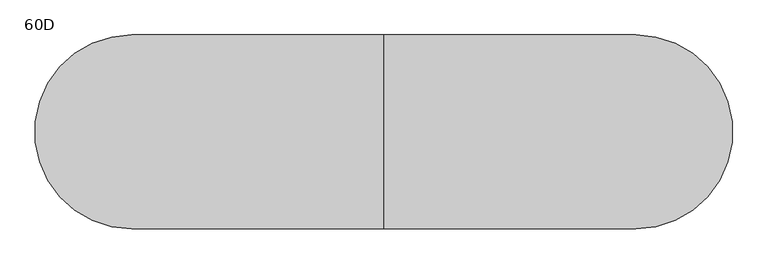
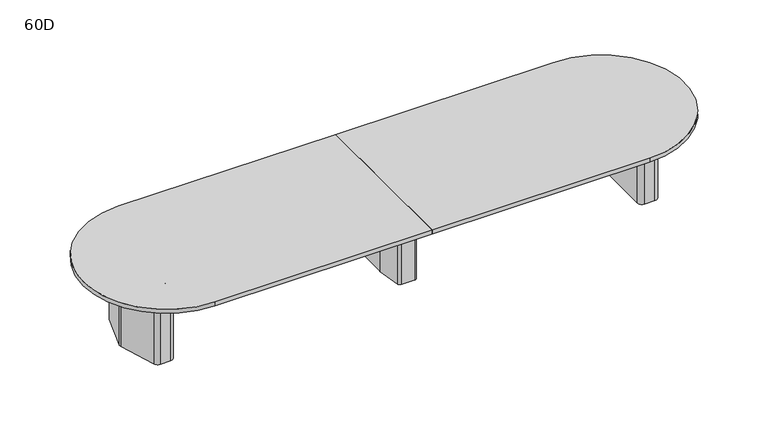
"""IFC4 building model written with IfcOpenShell, lengths in millimetres: furniture geometry, Coalesse_AM_Table_Conference_ETable2_Racetrack_18ft_ThreeBase : 60D."""

from ifc_helpers import new_model, si_unit, point, frame, frame_2d, origin, origin_with_axes, place, context, project, spatial, polyline, circle_curve, trimmed, segment, composite_curve, outline, extrude, source, transform, mapped, element, save
from ifc_brep_helpers import plane_surface, cylinder_surface, revolved_surface, advanced_brep


def furniture_60d_041f9e97(model_context):
    return source(origin(), model_context, "Body", "SolidModel", [
        advanced_brep(
        [(61.0357815, 381.0, 698.5), (-61.0357815, 381.0, 698.5), (-86.1885994, 359.1349332, 698.5), (-117.2278179, 138.2753661, 698.5), (-117.475, 134.740433, 698.5), (-117.475, -134.7404196, 698.5), (-117.2278463, -138.2751502, 698.5), (-86.1904395, -359.1347306, 698.5), (-61.0375932, -381.0, 698.5), (61.0375932, -381.0, 698.5), (86.1904395, -359.1347306, 698.5), (117.2278463, -138.2751502, 698.5), (117.475, -134.7404196, 698.5), (117.475, 134.740433, 698.5), (117.2278179, 138.2753661, 698.5), (86.1885994, 359.1349332, 698.5), (25.4, 314.325, 698.5), (50.8, 288.925, 698.5), (50.8, -288.925, 698.5), (25.4, -314.325, 698.5), (-25.4, -314.325, 698.5), (-50.8, -288.925, 698.5), (-50.8, 288.925, 698.5), (-25.4, 314.325, 698.5), (61.0357815, 381.0, 3.175), (86.1885994, 359.1349332, 3.175), (117.2278179, 138.2753661, 3.175), (117.475, 134.740433, 3.175), (117.475, -134.7404196, 3.175), (117.2278463, -138.2751502, 3.175), (86.1904395, -359.1347306, 3.175), (61.0375932, -381.0, 3.175), (-61.0375932, -381.0, 3.175), (-86.1904395, -359.1347306, 3.175), (-117.2278463, -138.2751502, 3.175), (-117.475, -134.7404196, 3.175), (-117.475, 134.740433, 3.175), (-117.2278179, 138.2753661, 3.175), (-86.1885994, 359.1349332, 3.175), (-61.0357815, 381.0, 3.175), (25.4, 327.025, 3.175), (-25.4, 327.025, 3.175), (-63.5, 288.925, 3.175), (-63.5, -288.925, 3.175), (-25.4, -327.025, 3.175), (25.4, -327.025, 3.175), (63.5, -288.925, 3.175), (63.5, 288.925, 3.175), (25.4, 314.325, 3.175), (50.8, 288.925, 3.175), (50.8, -288.925, 3.175), (25.4, -314.325, 3.175), (-25.4, -314.325, 3.175), (-50.8, -288.925, 3.175), (-50.8, 288.925, 3.175), (-25.4, 314.325, 3.175), (25.4, 327.025, 0.0), (63.5, 288.925, 0.0), (63.5, -288.925, 0.0), (25.4, -327.025, 0.0), (-25.4, -327.025, 0.0), (-63.5, -288.925, 0.0), (-63.5, 288.925, 0.0), (-25.4, 327.025, 0.0)],
        [
            (0, 1),
            (1, 2, circle_curve(frame((-61.0357815, 355.6, 698.5), z_axis=(0.0, 0.0, 1.0), x_axis=(1.0, 0.0, 0.0)), 25.4)),
            (2, 3),
            (3, 4, circle_curve(frame((-92.075, 134.740433, 698.5), z_axis=(0.0, 0.0, 1.0), x_axis=(1.0, 0.0, 0.0)), 25.4)),
            (4, 5),
            (5, 6, circle_curve(frame((-92.075, -134.7404196, 698.5), z_axis=(0.0, 0.0, 1.0), x_axis=(1.0, 0.0, 0.0)), 25.4)),
            (6, 7),
            (7, 8, circle_curve(frame((-61.0375932, -355.6, 698.5), z_axis=(0.0, 0.0, 1.0), x_axis=(1.0, 0.0, 0.0)), 25.4)),
            (8, 9),
            (9, 10, circle_curve(frame((61.0375932, -355.6, 698.5), z_axis=(0.0, 0.0, 1.0), x_axis=(1.0, 0.0, 0.0)), 25.4)),
            (10, 11),
            (11, 12, circle_curve(frame((92.075, -134.7404196, 698.5), z_axis=(0.0, 0.0, 1.0), x_axis=(1.0, 0.0, 0.0)), 25.4)),
            (12, 13),
            (13, 14, circle_curve(frame((92.075, 134.740433, 698.5), z_axis=(0.0, 0.0, 1.0), x_axis=(1.0, 0.0, 0.0)), 25.4)),
            (14, 15),
            (15, 0, circle_curve(frame((61.0357815, 355.6, 698.5), z_axis=(0.0, 0.0, 1.0), x_axis=(1.0, 0.0, 0.0)), 25.4)),
            (16, 17, circle_curve(frame((25.4, 288.925, 698.5), z_axis=(0.0, 0.0, -1.0), x_axis=(1.0, 0.0, 0.0)), 25.4)),
            (17, 18),
            (18, 19, circle_curve(frame((25.4, -288.925, 698.5), z_axis=(0.0, 0.0, -1.0), x_axis=(1.0, 0.0, 0.0)), 25.4)),
            (19, 20),
            (20, 21, circle_curve(frame((-25.4, -288.925, 698.5), z_axis=(0.0, 0.0, -1.0), x_axis=(1.0, 0.0, 0.0)), 25.4)),
            (21, 22),
            (22, 23, circle_curve(frame((-25.4, 288.925, 698.5), z_axis=(0.0, 0.0, -1.0), x_axis=(1.0, 0.0, 0.0)), 25.4)),
            (23, 16),
            (24, 25, circle_curve(frame((61.0357815, 355.6, 3.175), z_axis=(0.0, 0.0, -1.0), x_axis=(1.0, 0.0, 0.0)), 25.4)),
            (25, 26),
            (26, 27, circle_curve(frame((92.075, 134.740433, 3.175), z_axis=(0.0, 0.0, -1.0), x_axis=(1.0, 0.0, 0.0)), 25.4)),
            (27, 28),
            (28, 29, circle_curve(frame((92.075, -134.7404196, 3.175), z_axis=(0.0, 0.0, -1.0), x_axis=(1.0, 0.0, 0.0)), 25.4)),
            (29, 30),
            (30, 31, circle_curve(frame((61.0375932, -355.6, 3.175), z_axis=(0.0, 0.0, -1.0), x_axis=(1.0, 0.0, 0.0)), 25.4)),
            (31, 32),
            (32, 33, circle_curve(frame((-61.0375932, -355.6, 3.175), z_axis=(0.0, 0.0, -1.0), x_axis=(1.0, 0.0, 0.0)), 25.4)),
            (33, 34),
            (34, 35, circle_curve(frame((-92.075, -134.7404196, 3.175), z_axis=(0.0, 0.0, -1.0), x_axis=(1.0, 0.0, 0.0)), 25.4)),
            (35, 36),
            (36, 37, circle_curve(frame((-92.075, 134.740433, 3.175), z_axis=(0.0, 0.0, -1.0), x_axis=(1.0, 0.0, 0.0)), 25.4)),
            (37, 38),
            (38, 39, circle_curve(frame((-61.0357815, 355.6, 3.175), z_axis=(0.0, 0.0, -1.0), x_axis=(1.0, 0.0, 0.0)), 25.4)),
            (39, 24),
            (40, 41),
            (41, 42, circle_curve(frame((-25.4, 288.925, 3.175), z_axis=(0.0, 0.0, 1.0), x_axis=(1.0, 0.0, 0.0)), 38.1)),
            (42, 43),
            (43, 44, circle_curve(frame((-25.4, -288.925, 3.175), z_axis=(0.0, 0.0, 1.0), x_axis=(1.0, 0.0, 0.0)), 38.1)),
            (44, 45),
            (45, 46, circle_curve(frame((25.4, -288.925, 3.175), z_axis=(0.0, 0.0, 1.0), x_axis=(1.0, 0.0, 0.0)), 38.1)),
            (46, 47),
            (47, 40, circle_curve(frame((25.4, 288.925, 3.175), z_axis=(0.0, 0.0, 1.0), x_axis=(1.0, 0.0, 0.0)), 38.1)),
            (0, 24),
            (39, 1),
            (38, 2),
            (37, 3),
            (36, 4),
            (35, 5),
            (34, 6),
            (33, 7),
            (32, 8),
            (31, 9),
            (30, 10),
            (29, 11),
            (28, 12),
            (27, 13),
            (26, 14),
            (25, 15),
            (16, 48),
            (48, 49, circle_curve(frame((25.4, 288.925, 3.175), z_axis=(0.0, 0.0, -1.0), x_axis=(1.0, 0.0, 0.0)), 25.4)),
            (49, 17),
            (49, 50),
            (50, 18),
            (50, 51, circle_curve(frame((25.4, -288.925, 3.175), z_axis=(0.0, 0.0, -1.0), x_axis=(1.0, 0.0, 0.0)), 25.4)),
            (51, 19),
            (51, 52),
            (52, 20),
            (52, 53, circle_curve(frame((-25.4, -288.925, 3.175), z_axis=(0.0, 0.0, -1.0), x_axis=(1.0, 0.0, 0.0)), 25.4)),
            (53, 21),
            (53, 54),
            (54, 22),
            (54, 55, circle_curve(frame((-25.4, 288.925, 3.175), z_axis=(0.0, 0.0, -1.0), x_axis=(1.0, 0.0, 0.0)), 25.4)),
            (55, 23),
            (55, 48),
            (56, 57, circle_curve(frame((25.4, 288.925, 0.0), z_axis=(0.0, 0.0, -1.0), x_axis=(1.0, 0.0, 0.0)), 38.1)),
            (57, 58),
            (58, 59, circle_curve(frame((25.4, -288.925, 0.0), z_axis=(0.0, 0.0, -1.0), x_axis=(1.0, 0.0, 0.0)), 38.1)),
            (59, 60),
            (60, 61, circle_curve(frame((-25.4, -288.925, 0.0), z_axis=(0.0, 0.0, -1.0), x_axis=(1.0, 0.0, 0.0)), 38.1)),
            (61, 62),
            (62, 63, circle_curve(frame((-25.4, 288.925, 0.0), z_axis=(0.0, 0.0, -1.0), x_axis=(1.0, 0.0, 0.0)), 38.1)),
            (63, 56),
            (63, 41),
            (40, 56),
            (62, 42),
            (61, 43),
            (60, 44),
            (59, 45),
            (58, 46),
            (57, 47),
        ],
        [
            plane_surface(frame((-1524.0, 381.0, 698.5), z_axis=(0.0, 0.0, 1.0), x_axis=(-1.0, 0.0, 0.0))),
            plane_surface(frame((-1524.0, 381.0, 3.175), z_axis=(0.0, 0.0, -1.0), x_axis=(1.0, 0.0, 0.0))),
            plane_surface(frame((61.0357815, 381.0, 698.5), z_axis=(0.0, 1.0, 0.0), x_axis=(0.0, 0.0, -1.0))),
            cylinder_surface(frame((-61.0357815, 355.6, 3.175), z_axis=(0.0, 0.0, 1.0), x_axis=(1.0, 0.0, 0.0)), 25.4),
            plane_surface(frame((-86.1885994, 359.1349332, 698.5), z_axis=(-0.9902684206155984, 0.13917059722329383, 0.0), x_axis=(0.0, 0.0, -1.0))),
            cylinder_surface(frame((-92.075, 134.740433, 3.175), z_axis=(0.0, 0.0, 1.0), x_axis=(1.0, 0.0, 0.0)), 25.4),
            plane_surface(frame((-117.475, 134.740433, 698.5), z_axis=(-1.0, 0.0, 0.0), x_axis=(0.0, 0.0, -1.0))),
            cylinder_surface(frame((-92.075, -134.7404196, 3.175), z_axis=(0.0, 0.0, 1.0), x_axis=(1.0, 0.0, 0.0)), 25.4),
            plane_surface(frame((-117.2278463, -138.2751502, 698.5), z_axis=(-0.9902695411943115, -0.1391626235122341, 0.0), x_axis=(0.0, 0.0, -1.0))),
            cylinder_surface(frame((-61.0375932, -355.6, 3.175), z_axis=(0.0, 0.0, 1.0), x_axis=(1.0, 0.0, 0.0)), 25.4),
            plane_surface(frame((-61.0375932, -381.0, 698.5), z_axis=(0.0, -1.0, 0.0), x_axis=(0.0, 0.0, -1.0))),
            cylinder_surface(frame((61.0375932, -355.6, 3.175), z_axis=(0.0, 0.0, 1.0), x_axis=(1.0, 0.0, 0.0)), 25.4),
            plane_surface(frame((86.1904395, -359.1347306, 698.5), z_axis=(0.9902695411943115, -0.1391626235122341, 0.0), x_axis=(0.0, 0.0, -1.0))),
            cylinder_surface(frame((92.075, -134.7404196, 3.175), z_axis=(0.0, 0.0, 1.0), x_axis=(1.0, 0.0, 0.0)), 25.4),
            plane_surface(frame((117.475, -134.7404196, 698.5), z_axis=(1.0, 0.0, 0.0), x_axis=(0.0, 0.0, -1.0))),
            cylinder_surface(frame((92.075, 134.740433, 3.175), z_axis=(0.0, 0.0, 1.0), x_axis=(1.0, 0.0, 0.0)), 25.4),
            plane_surface(frame((117.2278179, 138.2753661, 698.5), z_axis=(0.9902684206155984, 0.13917059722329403, 0.0), x_axis=(0.0, 0.0, -1.0))),
            cylinder_surface(frame((61.0357815, 355.6, 3.175), z_axis=(0.0, 0.0, 1.0), x_axis=(1.0, 0.0, 0.0)), 25.4),
            revolved_surface(polyline([(50.8, 288.925, 3.175), (50.8, 288.925, 698.5)]), (25.4, 288.925, 0.0), (0.0, 0.0, -1.0)),
            plane_surface(frame((50.8, 288.925, 698.5), z_axis=(-1.0, 0.0, 0.0), x_axis=(0.0, 0.0, -1.0))),
            revolved_surface(polyline([(50.8, -288.925, 3.175), (50.8, -288.925, 698.5)]), (25.4, -288.925, 0.0), (0.0, 0.0, -1.0)),
            plane_surface(frame((25.4, -314.325, 698.5), z_axis=(0.0, 1.0, 0.0), x_axis=(0.0, 0.0, -1.0))),
            revolved_surface(polyline([(0.0, -288.925, 3.175), (0.0, -288.925, 698.5)]), (-25.4, -288.925, 0.0), (0.0, 0.0, -1.0)),
            plane_surface(frame((-50.8, -288.925, 698.5), z_axis=(1.0, 0.0, 0.0), x_axis=(0.0, 0.0, -1.0))),
            revolved_surface(polyline([(0.0, 288.925, 3.175), (0.0, 288.925, 698.5)]), (-25.4, 288.925, 0.0), (0.0, 0.0, -1.0)),
            plane_surface(frame((-25.4, 314.325, 698.5), z_axis=(0.0, -1.0, 0.0), x_axis=(0.0, 0.0, -1.0))),
            plane_surface(frame((-50.8, 327.025, 3.175), z_axis=(0.0, 0.0, 1.0), x_axis=(-1.0, 0.0, 0.0))),
            plane_surface(frame((-50.8, 327.025, 0.0), z_axis=(0.0, 0.0, -1.0), x_axis=(1.0, 0.0, 0.0))),
            plane_surface(frame((25.4, 327.025, 3.175), z_axis=(0.0, 1.0, 0.0), x_axis=(0.0, 0.0, -1.0))),
            cylinder_surface(frame((-25.4, 288.925, 0.0), z_axis=(0.0, 0.0, 1.0), x_axis=(1.0, 0.0, 0.0)), 38.1),
            plane_surface(frame((-63.5, 288.925, 3.175), z_axis=(-1.0, 0.0, 0.0), x_axis=(0.0, 0.0, -1.0))),
            cylinder_surface(frame((-25.4, -288.925, 0.0), z_axis=(0.0, 0.0, 1.0), x_axis=(1.0, 0.0, 0.0)), 38.1),
            plane_surface(frame((-25.4, -327.025, 3.175), z_axis=(0.0, -1.0, 0.0), x_axis=(0.0, 0.0, -1.0))),
            cylinder_surface(frame((25.4, -288.925, 0.0), z_axis=(0.0, 0.0, 1.0), x_axis=(1.0, 0.0, 0.0)), 38.1),
            plane_surface(frame((63.5, -288.925, 3.175), z_axis=(1.0, 0.0, 0.0), x_axis=(0.0, 0.0, -1.0))),
            cylinder_surface(frame((25.4, 288.925, 0.0), z_axis=(0.0, 0.0, 1.0), x_axis=(1.0, 0.0, 0.0)), 38.1),
        ],
        [
            (0, [[1, 2, 3, 4, 5, 6, 7, 8, 9, 10, 11, 12, 13, 14, 15, 16], [17, 18, 19, 20, 21, 22, 23, 24]]),
            (1, [[25, 26, 27, 28, 29, 30, 31, 32, 33, 34, 35, 36, 37, 38, 39, 40], [41, 42, 43, 44, 45, 46, 47, 48]]),
            (2, [[-1, 49, -40, 50]]),
            (3, [[-2, -50, -39, 51]]),
            (4, [[-3, -51, -38, 52]]),
            (5, [[-4, -52, -37, 53]]),
            (6, [[-5, -53, -36, 54]]),
            (7, [[-6, -54, -35, 55]]),
            (8, [[-7, -55, -34, 56]]),
            (9, [[-8, -56, -33, 57]]),
            (10, [[-9, -57, -32, 58]]),
            (11, [[-10, -58, -31, 59]]),
            (12, [[-11, -59, -30, 60]]),
            (13, [[-12, -60, -29, 61]]),
            (14, [[-13, -61, -28, 62]]),
            (15, [[-14, -62, -27, 63]]),
            (16, [[-15, -63, -26, 64]]),
            (17, [[-16, -64, -25, -49]]),
            (18, [[-17, 65, 66, 67]]),
            (19, [[-18, -67, 68, 69]]),
            (20, [[-19, -69, 70, 71]]),
            (21, [[-20, -71, 72, 73]]),
            (22, [[-21, -73, 74, 75]]),
            (23, [[-22, -75, 76, 77]]),
            (24, [[-23, -77, 78, 79]]),
            (25, [[-24, -79, 80, -65]]),
            (26, [[-66, -80, -78, -76, -74, -72, -70, -68]]),
            (27, [[81, 82, 83, 84, 85, 86, 87, 88]]),
            (28, [[-88, 89, -41, 90]]),
            (29, [[-87, 91, -42, -89]]),
            (30, [[-86, 92, -43, -91]]),
            (31, [[-85, 93, -44, -92]]),
            (32, [[-84, 94, -45, -93]]),
            (33, [[-83, 95, -46, -94]]),
            (34, [[-82, 96, -47, -95]]),
            (35, [[-81, -90, -48, -96]]),
        ],
    ),
        extrude(outline(composite_curve([segment(polyline([(2341.5625, 101.7236478), (2341.5625, -97.2761514)]), True, "CONTINUOUS"), segment(trimmed(circle_curve(frame_2d((2303.4625, -97.2761514)), 38.1), [point((2341.5625, -97.2761514))], [point((2339.7991129, -108.7330515))], False, "CARTESIAN"), True, "CONTINUOUS"), segment(polyline([(2339.7991129, -108.7330515), (2281.3745591, -294.0319001)]), True, "CONTINUOUS"), segment(trimmed(circle_curve(frame_2d((2245.0379462, -282.575)), 38.1), [point((2281.3745591, -294.0319001))], [point((2245.0379462, -320.675))], False, "CARTESIAN"), True, "CONTINUOUS"), segment(polyline([(2245.0379462, -320.675), (2178.05, -320.675)]), True, "CONTINUOUS"), segment(trimmed(circle_curve(frame_2d((2178.05, -282.575)), 38.1), [point((2178.05, -320.675))], [point((2139.95, -282.575))], False, "CARTESIAN"), True, "CONTINUOUS"), segment(polyline([(2139.95, -282.575), (2139.95, 282.575)]), True, "CONTINUOUS"), segment(trimmed(circle_curve(frame_2d((2178.05, 282.575)), 38.1), [point((2139.95, 282.575))], [point((2178.05, 320.675))], False, "CARTESIAN"), True, "CONTINUOUS"), segment(polyline([(2178.05, 320.675), (2248.7873998, 320.675)]), True, "CONTINUOUS"), segment(trimmed(circle_curve(frame_2d((2248.7873998, 282.575)), 38.1), [point((2248.7873998, 320.675))], [point((2285.2572049, 293.6005756))], False, "CARTESIAN"), True, "CONTINUOUS"), segment(polyline([(2285.2572049, 293.6005756), (2339.9323051, 112.7492234)]), True, "CONTINUOUS"), segment(trimmed(circle_curve(frame_2d((2303.4625, 101.7236478)), 38.1), [point((2339.9323051, 112.7492234))], [point((2341.5625, 101.7236478))], False, "CARTESIAN"), True, "CONTINUOUS")], self_intersect=False)), origin_with_axes(), (0.0, 0.0, 1.0), 3.175),
        extrude(outline(composite_curve([segment(polyline([(2162.175, 381.0), (2250.3221663, 381.0)]), True, "CONTINUOUS"), segment(trimmed(circle_curve(frame_2d((2250.3221663, 339.725)), 41.275), [point((2250.3221663, 381.0))], [point((2289.6868303, 352.1366418))], False, "CARTESIAN"), True, "CONTINUOUS"), segment(polyline([(2289.6868303, 352.1366418), (2396.8018053, 12.4116418)]), True, "CONTINUOUS"), segment(trimmed(circle_curve(frame_2d((2357.4371413, 0.0)), 41.275), [point((2396.8018053, 12.4116418))], [point((2396.8018053, -12.4116418))], False, "CARTESIAN"), True, "CONTINUOUS"), segment(polyline([(2396.8018053, -12.4116418), (2289.6868303, -352.1366418)]), True, "CONTINUOUS"), segment(trimmed(circle_curve(frame_2d((2250.3221663, -339.725)), 41.275), [point((2289.6868303, -352.1366418))], [point((2250.3221663, -381.0))], False, "CARTESIAN"), True, "CONTINUOUS"), segment(polyline([(2250.3221663, -381.0), (2155.825, -381.0)]), True, "CONTINUOUS"), segment(trimmed(circle_curve(frame_2d((2155.825, -339.725)), 41.275), [point((2155.825, -381.0))], [point((2114.55, -339.725))], False, "CARTESIAN"), True, "CONTINUOUS"), segment(polyline([(2114.55, -339.725), (2114.55, 333.375)]), True, "CONTINUOUS"), segment(trimmed(circle_curve(frame_2d((2162.175, 333.375)), 47.625), [point((2114.55, 333.375))], [point((2162.175, 381.0))], False, "CARTESIAN"), True, "CONTINUOUS")], self_intersect=False), holes=[composite_curve([segment(trimmed(circle_curve(frame_2d((2178.05, -282.575)), 25.4), [point((2152.65, -282.575))], [point((2178.05, -307.975))], True, "CARTESIAN"), True, "CONTINUOUS"), segment(polyline([(2178.05, -307.975), (2245.0379462, -307.975)]), True, "CONTINUOUS"), segment(trimmed(circle_curve(frame_2d((2245.0379462, -282.575)), 25.4), [point((2245.0379462, -307.975))], [point((2269.2623548, -290.2129334))], True, "CARTESIAN"), True, "CONTINUOUS"), segment(polyline([(2269.2623548, -290.2129334), (2327.6869086, -104.9140848)]), True, "CONTINUOUS"), segment(trimmed(circle_curve(frame_2d((2303.4625, -97.2761514)), 25.4), [point((2327.6869086, -104.9140848))], [point((2328.8625, -97.2761514))], True, "CARTESIAN"), True, "CONTINUOUS"), segment(polyline([(2328.8625, -97.2761514), (2328.8625, 101.7236478)]), True, "CONTINUOUS"), segment(trimmed(circle_curve(frame_2d((2303.4625, 101.7236478)), 25.4), [point((2328.8625, 101.7236478))], [point((2327.7757034, 109.0740316))], True, "CARTESIAN"), True, "CONTINUOUS"), segment(polyline([(2327.7757034, 109.0740316), (2273.1006032, 289.9253837)]), True, "CONTINUOUS"), segment(trimmed(circle_curve(frame_2d((2248.7873998, 282.575)), 25.4), [point((2273.1006032, 289.9253837))], [point((2248.7873998, 307.975))], True, "CARTESIAN"), True, "CONTINUOUS"), segment(polyline([(2248.7873998, 307.975), (2178.05, 307.975)]), True, "CONTINUOUS"), segment(trimmed(circle_curve(frame_2d((2178.05, 282.575)), 25.4), [point((2178.05, 307.975))], [point((2152.65, 282.575))], True, "CARTESIAN"), True, "CONTINUOUS"), segment(polyline([(2152.65, 282.575), (2152.65, -282.575)]), True, "CONTINUOUS")], self_intersect=False)]), frame((0.0, 0.0, 3.175), z_axis=(0.0, 0.0, 1.0), x_axis=(1.0, 0.0, 0.0)), (0.0, 0.0, 1.0), 695.325),
        extrude(outline(composite_curve([segment(trimmed(circle_curve(frame_2d((-2314.575, 101.7236478)), 38.1), [point((-2352.675, 101.7236478))], [point((-2351.0448051, 112.7492234))], False, "CARTESIAN"), True, "CONTINUOUS"), segment(polyline([(-2351.0448051, 112.7492234), (-2296.3697049, 293.6005756)]), True, "CONTINUOUS"), segment(trimmed(circle_curve(frame_2d((-2259.8998998, 282.575)), 38.1), [point((-2296.3697049, 293.6005756))], [point((-2259.8998998, 320.675))], False, "CARTESIAN"), True, "CONTINUOUS"), segment(polyline([(-2259.8998998, 320.675), (-2189.1625, 320.675)]), True, "CONTINUOUS"), segment(trimmed(circle_curve(frame_2d((-2189.1625, 282.575)), 38.1), [point((-2189.1625, 320.675))], [point((-2151.0625, 282.575))], False, "CARTESIAN"), True, "CONTINUOUS"), segment(polyline([(-2151.0625, 282.575), (-2151.0625, -282.575)]), True, "CONTINUOUS"), segment(trimmed(circle_curve(frame_2d((-2189.1625, -282.575)), 38.1), [point((-2151.0625, -282.575))], [point((-2189.1625, -320.675))], False, "CARTESIAN"), True, "CONTINUOUS"), segment(polyline([(-2189.1625, -320.675), (-2256.1504462, -320.675)]), True, "CONTINUOUS"), segment(trimmed(circle_curve(frame_2d((-2256.1504462, -282.575)), 38.1), [point((-2256.1504462, -320.675))], [point((-2292.4870591, -294.0319001))], False, "CARTESIAN"), True, "CONTINUOUS"), segment(polyline([(-2292.4870591, -294.0319001), (-2350.9116129, -108.7330515)]), True, "CONTINUOUS"), segment(trimmed(circle_curve(frame_2d((-2314.575, -97.2761514)), 38.1), [point((-2350.9116129, -108.7330515))], [point((-2352.675, -97.2761514))], False, "CARTESIAN"), True, "CONTINUOUS"), segment(polyline([(-2352.675, -97.2761514), (-2352.675, 101.7236478)]), True, "CONTINUOUS")], self_intersect=False)), origin_with_axes(), (0.0, 0.0, 1.0), 3.175),
        extrude(outline(composite_curve([segment(trimmed(circle_curve(frame_2d((-2173.2875, 333.375)), 47.625), [point((-2173.2875, 381.0))], [point((-2125.6625, 333.375))], False, "CARTESIAN"), True, "CONTINUOUS"), segment(polyline([(-2125.6625, 333.375), (-2125.6625, -339.725)]), True, "CONTINUOUS"), segment(trimmed(circle_curve(frame_2d((-2166.9375, -339.725)), 41.275), [point((-2125.6625, -339.725))], [point((-2166.9375, -381.0))], False, "CARTESIAN"), True, "CONTINUOUS"), segment(polyline([(-2166.9375, -381.0), (-2261.4346663, -381.0)]), True, "CONTINUOUS"), segment(trimmed(circle_curve(frame_2d((-2261.4346663, -339.725)), 41.275), [point((-2261.4346663, -381.0))], [point((-2300.7993303, -352.1366418))], False, "CARTESIAN"), True, "CONTINUOUS"), segment(polyline([(-2300.7993303, -352.1366418), (-2407.9143053, -12.4116418)]), True, "CONTINUOUS"), segment(trimmed(circle_curve(frame_2d((-2368.5496413, 0.0)), 41.275), [point((-2407.9143053, -12.4116418))], [point((-2407.9143053, 12.4116418))], False, "CARTESIAN"), True, "CONTINUOUS"), segment(polyline([(-2407.9143053, 12.4116418), (-2300.7993303, 352.1366418)]), True, "CONTINUOUS"), segment(trimmed(circle_curve(frame_2d((-2261.4346663, 339.725)), 41.275), [point((-2300.7993303, 352.1366418))], [point((-2261.4346663, 381.0))], False, "CARTESIAN"), True, "CONTINUOUS"), segment(polyline([(-2261.4346663, 381.0), (-2173.2875, 381.0)]), True, "CONTINUOUS")], self_intersect=False), holes=[composite_curve([segment(polyline([(-2163.7625, -282.575), (-2163.7625, 282.575)]), True, "CONTINUOUS"), segment(trimmed(circle_curve(frame_2d((-2189.1625, 282.575)), 25.4), [point((-2163.7625, 282.575))], [point((-2189.1625, 307.975))], True, "CARTESIAN"), True, "CONTINUOUS"), segment(polyline([(-2189.1625, 307.975), (-2259.8998998, 307.975)]), True, "CONTINUOUS"), segment(trimmed(circle_curve(frame_2d((-2259.8998998, 282.575)), 25.4), [point((-2259.8998998, 307.975))], [point((-2284.2131032, 289.9253837))], True, "CARTESIAN"), True, "CONTINUOUS"), segment(polyline([(-2284.2131032, 289.9253837), (-2338.8882034, 109.0740316)]), True, "CONTINUOUS"), segment(trimmed(circle_curve(frame_2d((-2314.575, 101.7236478)), 25.4), [point((-2338.8882034, 109.0740316))], [point((-2339.975, 101.7236478))], True, "CARTESIAN"), True, "CONTINUOUS"), segment(polyline([(-2339.975, 101.7236478), (-2339.975, -97.2761514)]), True, "CONTINUOUS"), segment(trimmed(circle_curve(frame_2d((-2314.575, -97.2761514)), 25.4), [point((-2339.975, -97.2761514))], [point((-2338.7994086, -104.9140848))], True, "CARTESIAN"), True, "CONTINUOUS"), segment(polyline([(-2338.7994086, -104.9140848), (-2280.3748548, -290.2129334)]), True, "CONTINUOUS"), segment(trimmed(circle_curve(frame_2d((-2256.1504462, -282.575)), 25.4), [point((-2280.3748548, -290.2129334))], [point((-2256.1504462, -307.975))], True, "CARTESIAN"), True, "CONTINUOUS"), segment(polyline([(-2256.1504462, -307.975), (-2189.1625, -307.975)]), True, "CONTINUOUS"), segment(trimmed(circle_curve(frame_2d((-2189.1625, -282.575)), 25.4), [point((-2189.1625, -307.975))], [point((-2163.7625, -282.575))], True, "CARTESIAN"), True, "CONTINUOUS")], self_intersect=False)]), frame((0.0, 0.0, 3.175), z_axis=(0.0, 0.0, 1.0), x_axis=(1.0, 0.0, 0.0)), (0.0, 0.0, 1.0), 695.325),
        extrude(outline(composite_curve([segment(trimmed(circle_curve(frame_2d((1981.2, 0.0)), 762.0), [point((1981.2, 762.0))], [point((1981.2, -762.0))], False, "CARTESIAN"), True, "CONTINUOUS"), segment(polyline([(1981.2, -762.0), (0.0, -762.0), (0.0, 762.0), (1981.2, 762.0)]), True, "CONTINUOUS")], self_intersect=False)), frame((0.0, 0.0, 698.5), z_axis=(0.0, 0.0, 1.0), x_axis=(1.0, 0.0, 0.0)), (0.0, 0.0, 1.0), 38.1),
        extrude(outline(composite_curve([segment(polyline([(0.0, 762.0), (0.0, -762.0), (-1981.2, -762.0)]), True, "CONTINUOUS"), segment(trimmed(circle_curve(frame_2d((-1981.2, 0.0)), 762.0), [point((-1981.2, -762.0))], [point((-1981.2, 762.0))], False, "CARTESIAN"), True, "CONTINUOUS"), segment(polyline([(-1981.2, 762.0), (0.0, 762.0)]), True, "CONTINUOUS")], self_intersect=False)), frame((0.0, 0.0, 698.5), z_axis=(0.0, 0.0, 1.0), x_axis=(1.0, 0.0, 0.0)), (0.0, 0.0, 1.0), 38.1),
        extrude(outline(polyline([(96.8375, 698.5), (103.1875, 698.5), (103.1875, 476.25), (-103.1875, 476.25), (-103.1875, 698.5), (-96.8375, 698.5), (-96.8375, 482.6), (96.8375, 482.6), (96.8375, 698.5)])), frame((-2125.6625, 0.0, 0.0), z_axis=(1.0, 0.0, 0.0), x_axis=(0.0, 1.0, 0.0)), (0.0, 0.0, 1.0), 4240.2125),
    ])


if __name__ == "__main__":
    model = new_model("IFC4")
    model_context = context("Model", 3, world=origin())
    ifc_project = project(units=[si_unit("LENGTHUNIT", "METRE", prefix="MILLI")], contexts=[model_context])
    site = spatial("IfcSite", under=ifc_project)
    building = spatial("IfcBuilding", under=site)
    placement = place(None, origin())
    furniture_60d_shape = furniture_60d_041f9e97(model_context)
    element("IfcFurniture", 1, ObjectType="Coalesse_AM_Table_Conference_ETable2_Racetrack_18ft_ThreeBase : 60D", at=placement, inside=building, context=model_context, shape_type="MappedRepresentation", body=[
        mapped(furniture_60d_shape, transform((0.0, 0.0, 0.0), x_axis=(1.0, 0.0, 0.0), y_axis=(0.0, 1.0, 0.0), z_axis=(0.0, 0.0, 1.0))),
    ])
    save(model, "model.ifc")
